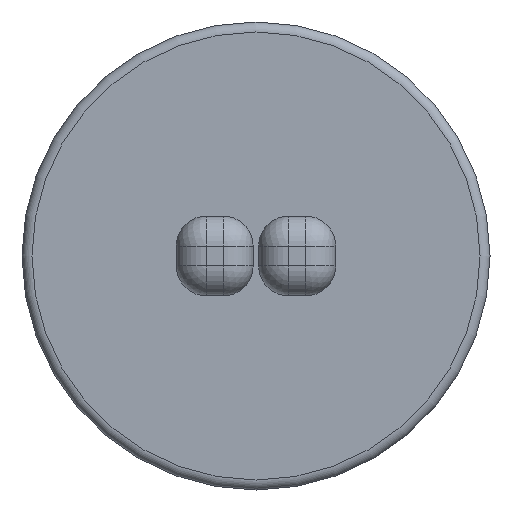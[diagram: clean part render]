
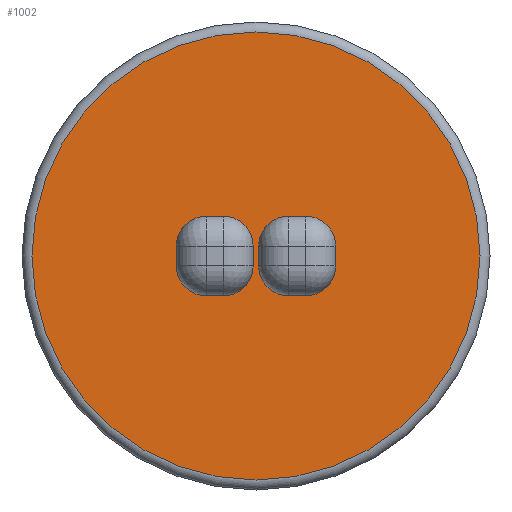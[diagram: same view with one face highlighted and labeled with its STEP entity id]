
A CAD part, front view. The second image highlights one B-rep face of the part: STEP entity #1002.
In plain terms, the highlighted planar face has unit normal (0, -1, 0).
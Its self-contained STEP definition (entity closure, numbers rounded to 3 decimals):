
#39=FACE_BOUND('',#307,.T.);
#40=FACE_BOUND('',#308,.T.);
#46=PLANE('',#1085);
#69=LINE('',#1556,#141);
#70=LINE('',#1560,#142);
#71=LINE('',#1564,#143);
#72=LINE('',#1568,#144);
#73=LINE('',#1572,#145);
#74=LINE('',#1576,#146);
#75=LINE('',#1580,#147);
#76=LINE('',#1584,#148);
#141=VECTOR('',#1227,10.);
#142=VECTOR('',#1230,10.);
#143=VECTOR('',#1233,10.);
#144=VECTOR('',#1236,10.);
#145=VECTOR('',#1239,10.);
#146=VECTOR('',#1242,10.);
#147=VECTOR('',#1245,10.);
#148=VECTOR('',#1248,10.);
#243=FACE_OUTER_BOUND('',#306,.T.);
#306=EDGE_LOOP('',(#699));
#307=EDGE_LOOP('',(#700,#701,#702,#703,#704,#705,#706,#707));
#308=EDGE_LOOP('',(#708,#709,#710,#711,#712,#713,#714,#715));
#376=CIRCLE('',#1080,1.125);
#380=CIRCLE('',#1086,0.15);
#381=CIRCLE('',#1087,0.15);
#382=CIRCLE('',#1088,0.15);
#383=CIRCLE('',#1089,0.15);
#384=CIRCLE('',#1090,0.15);
#385=CIRCLE('',#1091,0.15);
#386=CIRCLE('',#1092,0.15);
#387=CIRCLE('',#1093,0.15);
#442=VERTEX_POINT('',#1543);
#445=VERTEX_POINT('',#1554);
#446=VERTEX_POINT('',#1555);
#447=VERTEX_POINT('',#1557);
#448=VERTEX_POINT('',#1559);
#449=VERTEX_POINT('',#1561);
#450=VERTEX_POINT('',#1563);
#451=VERTEX_POINT('',#1565);
#452=VERTEX_POINT('',#1567);
#453=VERTEX_POINT('',#1570);
#454=VERTEX_POINT('',#1571);
#455=VERTEX_POINT('',#1573);
#456=VERTEX_POINT('',#1575);
#457=VERTEX_POINT('',#1577);
#458=VERTEX_POINT('',#1579);
#459=VERTEX_POINT('',#1581);
#460=VERTEX_POINT('',#1583);
#536=EDGE_CURVE('',#442,#442,#376,.T.);
#541=EDGE_CURVE('',#445,#446,#69,.T.);
#542=EDGE_CURVE('',#447,#446,#380,.F.);
#543=EDGE_CURVE('',#447,#448,#70,.T.);
#544=EDGE_CURVE('',#449,#448,#381,.F.);
#545=EDGE_CURVE('',#449,#450,#71,.T.);
#546=EDGE_CURVE('',#451,#450,#382,.F.);
#547=EDGE_CURVE('',#451,#452,#72,.T.);
#548=EDGE_CURVE('',#445,#452,#383,.F.);
#549=EDGE_CURVE('',#453,#454,#73,.T.);
#550=EDGE_CURVE('',#455,#454,#384,.F.);
#551=EDGE_CURVE('',#455,#456,#74,.T.);
#552=EDGE_CURVE('',#457,#456,#385,.F.);
#553=EDGE_CURVE('',#457,#458,#75,.T.);
#554=EDGE_CURVE('',#459,#458,#386,.F.);
#555=EDGE_CURVE('',#459,#460,#76,.T.);
#556=EDGE_CURVE('',#453,#460,#387,.F.);
#699=ORIENTED_EDGE('',*,*,#536,.F.);
#700=ORIENTED_EDGE('',*,*,#541,.T.);
#701=ORIENTED_EDGE('',*,*,#542,.F.);
#702=ORIENTED_EDGE('',*,*,#543,.T.);
#703=ORIENTED_EDGE('',*,*,#544,.F.);
#704=ORIENTED_EDGE('',*,*,#545,.T.);
#705=ORIENTED_EDGE('',*,*,#546,.F.);
#706=ORIENTED_EDGE('',*,*,#547,.T.);
#707=ORIENTED_EDGE('',*,*,#548,.F.);
#708=ORIENTED_EDGE('',*,*,#549,.T.);
#709=ORIENTED_EDGE('',*,*,#550,.F.);
#710=ORIENTED_EDGE('',*,*,#551,.T.);
#711=ORIENTED_EDGE('',*,*,#552,.F.);
#712=ORIENTED_EDGE('',*,*,#553,.T.);
#713=ORIENTED_EDGE('',*,*,#554,.F.);
#714=ORIENTED_EDGE('',*,*,#555,.T.);
#715=ORIENTED_EDGE('',*,*,#556,.F.);
#1002=ADVANCED_FACE('',(#243,#39,#40),#46,.F.);
#1080=AXIS2_PLACEMENT_3D('',#1545,#1214,#1215);
#1085=AXIS2_PLACEMENT_3D('',#1553,#1225,#1226);
#1086=AXIS2_PLACEMENT_3D('',#1558,#1228,#1229);
#1087=AXIS2_PLACEMENT_3D('',#1562,#1231,#1232);
#1088=AXIS2_PLACEMENT_3D('',#1566,#1234,#1235);
#1089=AXIS2_PLACEMENT_3D('',#1569,#1237,#1238);
#1090=AXIS2_PLACEMENT_3D('',#1574,#1240,#1241);
#1091=AXIS2_PLACEMENT_3D('',#1578,#1243,#1244);
#1092=AXIS2_PLACEMENT_3D('',#1582,#1246,#1247);
#1093=AXIS2_PLACEMENT_3D('',#1585,#1249,#1250);
#1214=DIRECTION('center_axis',(0.,1.,0.));
#1215=DIRECTION('ref_axis',(1.,0.,0.));
#1225=DIRECTION('center_axis',(0.,1.,0.));
#1226=DIRECTION('ref_axis',(1.,0.,0.));
#1227=DIRECTION('',(-1.,0.,0.));
#1228=DIRECTION('center_axis',(0.,1.,0.));
#1229=DIRECTION('ref_axis',(-0.707,0.,-0.707));
#1230=DIRECTION('',(0.,0.,1.));
#1231=DIRECTION('center_axis',(0.,1.,0.));
#1232=DIRECTION('ref_axis',(-0.707,0.,0.707));
#1233=DIRECTION('',(1.,0.,0.));
#1234=DIRECTION('center_axis',(0.,1.,0.));
#1235=DIRECTION('ref_axis',(0.707,0.,0.707));
#1236=DIRECTION('',(0.,0.,-1.));
#1237=DIRECTION('center_axis',(0.,1.,0.));
#1238=DIRECTION('ref_axis',(0.707,0.,-0.707));
#1239=DIRECTION('',(1.,0.,0.));
#1240=DIRECTION('center_axis',(0.,1.,0.));
#1241=DIRECTION('ref_axis',(0.707,0.,0.707));
#1242=DIRECTION('',(0.,0.,-1.));
#1243=DIRECTION('center_axis',(0.,1.,0.));
#1244=DIRECTION('ref_axis',(0.707,0.,-0.707));
#1245=DIRECTION('',(-1.,0.,0.));
#1246=DIRECTION('center_axis',(0.,1.,0.));
#1247=DIRECTION('ref_axis',(-0.707,0.,-0.707));
#1248=DIRECTION('',(0.,0.,1.));
#1249=DIRECTION('center_axis',(0.,1.,0.));
#1250=DIRECTION('ref_axis',(-0.707,0.,0.707));
#1543=CARTESIAN_POINT('',(1.175,0.,-1.125));
#1545=CARTESIAN_POINT('Origin',(1.175,0.,0.));
#1553=CARTESIAN_POINT('Origin',(1.175,0.,0.));
#1554=CARTESIAN_POINT('',(1.425,0.,-0.2));
#1555=CARTESIAN_POINT('',(1.339,0.,-0.2));
#1556=CARTESIAN_POINT('',(1.182,0.,-0.2));
#1557=CARTESIAN_POINT('',(1.189,0.,-0.05));
#1558=CARTESIAN_POINT('Origin',(1.339,0.,-0.05));
#1559=CARTESIAN_POINT('',(1.189,0.,0.05));
#1560=CARTESIAN_POINT('',(1.189,0.,0.1));
#1561=CARTESIAN_POINT('',(1.339,0.,0.2));
#1562=CARTESIAN_POINT('Origin',(1.339,0.,0.05));
#1563=CARTESIAN_POINT('',(1.425,0.,0.2));
#1564=CARTESIAN_POINT('',(1.375,0.,0.2));
#1565=CARTESIAN_POINT('',(1.575,0.,0.05));
#1566=CARTESIAN_POINT('Origin',(1.425,0.,0.05));
#1567=CARTESIAN_POINT('',(1.575,0.,-0.05));
#1568=CARTESIAN_POINT('',(1.575,0.,-0.1));
#1569=CARTESIAN_POINT('Origin',(1.425,0.,-0.05));
#1570=CARTESIAN_POINT('',(0.925,0.,0.2));
#1571=CARTESIAN_POINT('',(1.011,0.,0.2));
#1572=CARTESIAN_POINT('',(1.168,0.,0.2));
#1573=CARTESIAN_POINT('',(1.161,0.,0.05));
#1574=CARTESIAN_POINT('Origin',(1.011,0.,0.05));
#1575=CARTESIAN_POINT('',(1.161,0.,-0.05));
#1576=CARTESIAN_POINT('',(1.161,0.,-0.1));
#1577=CARTESIAN_POINT('',(1.011,0.,-0.2));
#1578=CARTESIAN_POINT('Origin',(1.011,0.,-0.05));
#1579=CARTESIAN_POINT('',(0.925,0.,-0.2));
#1580=CARTESIAN_POINT('',(0.975,0.,-0.2));
#1581=CARTESIAN_POINT('',(0.775,0.,-0.05));
#1582=CARTESIAN_POINT('Origin',(0.925,0.,-0.05));
#1583=CARTESIAN_POINT('',(0.775,0.,0.05));
#1584=CARTESIAN_POINT('',(0.775,0.,0.1));
#1585=CARTESIAN_POINT('Origin',(0.925,0.,0.05));
